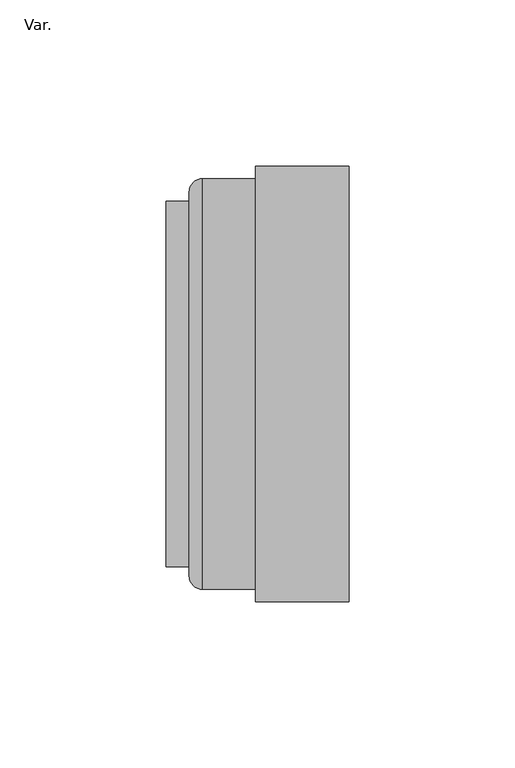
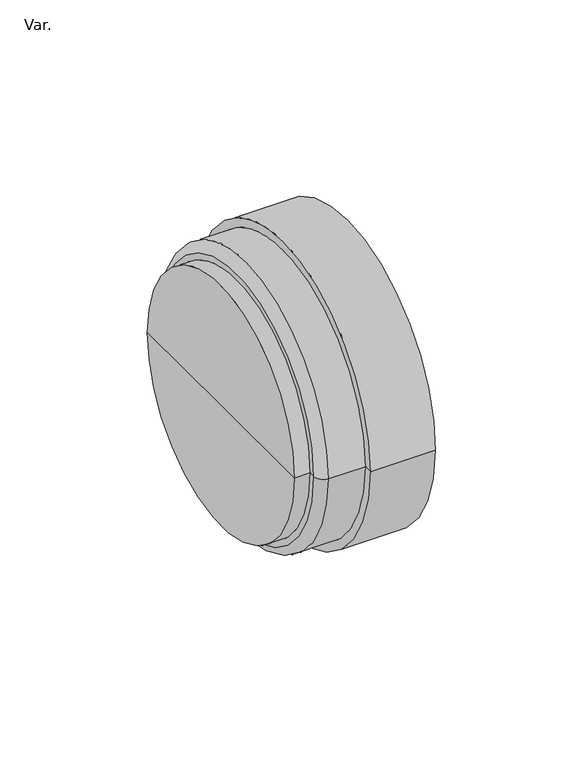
"""IFC4 building model written with IfcOpenShell, lengths in millimetres: pipe fitting geometry, NLRS_52_PIF_UN_HDPE snap socket short_Akatherm : Var.."""

from ifc_helpers import new_model, si_unit, point, frame, origin, place, context, project, spatial, circle_curve, ellipse_curve, trimmed, source, transform, mapped, element, save
from ifc_brep_helpers import plane_surface, cylinder_surface, revolved_surface, advanced_brep


def var_48b90cc6(model_context):
    return source(origin(), model_context, "Body", "AdvancedBrep", [
        advanced_brep(
        [(-6.0, 0.0, 0.0), (-6.0, 55.0, 0.0), (-6.0, -55.0, 0.0), (49.0, -65.5, 0.0), (49.0, 65.5, 0.0), (49.0, 0.0, 0.0), (21.0, -65.5, 0.0), (21.0, 65.5, 0.0), (21.0, -61.75, 0.0), (21.0, 61.75, 0.0), (5.0, -61.75, 0.0), (5.0, 61.75, 0.0), (1.0, -57.75, 0.0), (1.0, 57.75, 0.0), (1.0, -55.0, 0.0), (1.0, 55.0, 0.0)],
        [
            (0, 1),
            (1, 2, circle_curve(frame((-6.0, 0.0, 0.0), z_axis=(-1.0, 0.0, 0.0), x_axis=(0.0, 1.0, 0.0)), 55.0)),
            (2, 0),
            (2, 1, circle_curve(frame((-6.0, 0.0, 0.0), z_axis=(-1.0, 0.0, 0.0), x_axis=(0.0, 1.0, 0.0)), 55.0)),
            (3, 4, circle_curve(frame((49.0, 0.0, 0.0), z_axis=(1.0, 0.0, 0.0), x_axis=(0.0, 1.0, 0.0)), 65.5)),
            (4, 5),
            (5, 3),
            (4, 3, circle_curve(frame((49.0, 0.0, 0.0), z_axis=(1.0, 0.0, 0.0), x_axis=(0.0, 1.0, 0.0)), 65.5)),
            (6, 7, circle_curve(frame((21.0, 0.0, 0.0), z_axis=(1.0, 0.0, 0.0), x_axis=(0.0, 1.0, 0.0)), 65.5)),
            (7, 4),
            (3, 6),
            (7, 6, circle_curve(frame((21.0, 0.0, 0.0), z_axis=(1.0, 0.0, 0.0), x_axis=(0.0, 1.0, 0.0)), 65.5)),
            (8, 9, circle_curve(frame((21.0, 0.0, 0.0), z_axis=(1.0, 0.0, 0.0), x_axis=(0.0, 1.0, 0.0)), 61.75)),
            (9, 7),
            (6, 8),
            (9, 8, circle_curve(frame((21.0, 0.0, 0.0), z_axis=(1.0, 0.0, 0.0), x_axis=(0.0, 1.0, 0.0)), 61.75)),
            (10, 11, circle_curve(frame((5.0, 0.0, 0.0), z_axis=(1.0, 0.0, 0.0), x_axis=(0.0, 1.0, 0.0)), 61.75)),
            (11, 9),
            (8, 10),
            (11, 10, circle_curve(frame((5.0, 0.0, 0.0), z_axis=(1.0, 0.0, 0.0), x_axis=(0.0, 1.0, 0.0)), 61.75)),
            (12, 13, circle_curve(frame((1.0, 0.0, 0.0), z_axis=(1.0, 0.0, 0.0), x_axis=(0.0, 1.0, 0.0)), 57.75)),
            (13, 11, circle_curve(frame((5.0, 57.75, 0.0), z_axis=(0.0, 0.0, -1.0), x_axis=(1.0, 0.0, 0.0)), 4.0)),
            (10, 12, circle_curve(frame((5.0, -57.75, 0.0), z_axis=(0.0, 0.0, -1.0), x_axis=(1.0, 0.0, 0.0)), 4.0)),
            (13, 12, circle_curve(frame((1.0, 0.0, 0.0), z_axis=(1.0, 0.0, 0.0), x_axis=(0.0, 1.0, 0.0)), 57.75)),
            (14, 15, circle_curve(frame((1.0, 0.0, 0.0), z_axis=(1.0, 0.0, 0.0), x_axis=(0.0, 1.0, 0.0)), 55.0)),
            (15, 13),
            (12, 14),
            (15, 14, circle_curve(frame((1.0, 0.0, 0.0), z_axis=(1.0, 0.0, 0.0), x_axis=(0.0, 1.0, 0.0)), 55.0)),
            (1, 15),
            (14, 2),
        ],
        [
            plane_surface(frame((-6.0, 0.0, 0.0), z_axis=(-1.0, 0.0, 0.0), x_axis=(0.0, 1.0, 0.0))),
            plane_surface(frame((49.0, 0.0, 0.0), z_axis=(1.0, 0.0, 0.0), x_axis=(0.0, 1.0, 0.0))),
            cylinder_surface(frame((344.8600576, 0.0, 0.0), z_axis=(-1.0, 0.0, 0.0), x_axis=(0.0, 1.0, 0.0)), 65.5),
            plane_surface(frame((21.0, 0.0, 0.0), z_axis=(-1.0, 0.0, 0.0), x_axis=(0.0, 1.0, 0.0))),
            cylinder_surface(frame((344.8600576, 0.0, 0.0), z_axis=(-1.0, 0.0, 0.0), x_axis=(0.0, 1.0, 0.0)), 61.75),
            revolved_surface(trimmed(ellipse_curve(frame((5.0, 57.75, 0.0), z_axis=(0.0, 0.0, 1.0), x_axis=(1.0, 0.0, 0.0)), 4.0, 4.0), [point((5.0, 61.75, 0.0))], [point((1.0, 57.75, 0.0))], True, "CARTESIAN"), (344.8600576, 0.0, 0.0), (-1.0, 0.0, 0.0)),
            plane_surface(frame((1.0, 0.0, 0.0), z_axis=(-1.0, 0.0, 0.0), x_axis=(0.0, 1.0, 0.0))),
            cylinder_surface(frame((344.8600576, 0.0, 0.0), z_axis=(-1.0, 0.0, 0.0), x_axis=(0.0, 1.0, 0.0)), 55.0),
        ],
        [
            (0, [[1, 2, 3]]),
            (0, [[-3, 4, -1]]),
            (1, [[5, 6, 7]]),
            (1, [[8, -7, -6]]),
            (2, [[9, 10, -5, 11]]),
            (2, [[12, -11, -8, -10]]),
            (3, [[13, 14, -9, 15]]),
            (3, [[16, -15, -12, -14]]),
            (4, [[17, 18, -13, 19]]),
            (4, [[20, -19, -16, -18]]),
            (5, [[21, 22, -17, 23]]),
            (5, [[24, -23, -20, -22]]),
            (6, [[25, 26, -21, 27]]),
            (6, [[28, -27, -24, -26]]),
            (7, [[-2, 29, -25, 30]]),
            (7, [[-4, -30, -28, -29]]),
        ],
    ),
    ])


if __name__ == "__main__":
    model = new_model("IFC4")
    model_context = context("Model", 3, world=origin())
    ifc_project = project(units=[si_unit("LENGTHUNIT", "METRE", prefix="MILLI")], contexts=[model_context])
    site = spatial("IfcSite", under=ifc_project)
    building = spatial("IfcBuilding", under=site)
    placement = place(None, origin())
    var_shape = var_48b90cc6(model_context)
    element("IfcPipeFitting", 1, ObjectType="NLRS_52_PIF_UN_HDPE snap socket short_Akatherm : Var.", at=placement, inside=building, context=model_context, shape_type="MappedRepresentation", body=[
        mapped(var_shape, transform((0.0, 0.0, 0.0), x_axis=(1.0, 0.0, 0.0), y_axis=(0.0, 1.0, 0.0), z_axis=(0.0, 0.0, 1.0))),
    ])
    save(model, "model.ifc")
